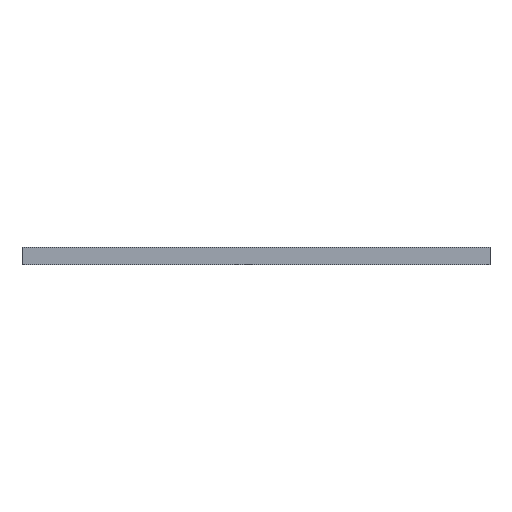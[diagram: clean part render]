
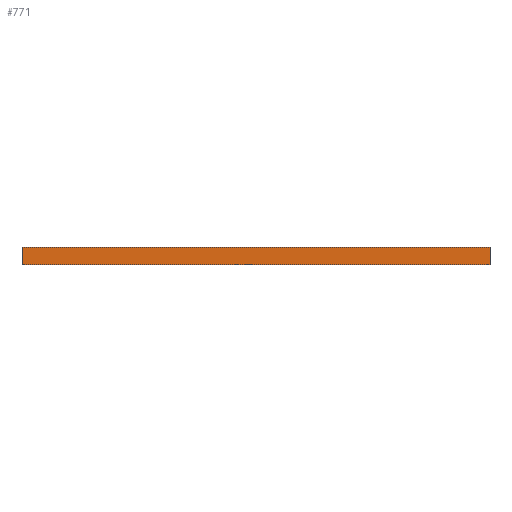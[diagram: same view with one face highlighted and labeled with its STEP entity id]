
A CAD part, front view. The second image highlights one B-rep face of the part: STEP entity #771.
In plain terms, the highlighted planar face has unit normal (0, -1, 0).
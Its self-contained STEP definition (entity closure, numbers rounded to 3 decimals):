
#348 = VERTEX_POINT ( 'NONE', #1753 ) ;
#350 = EDGE_CURVE ( 'NONE', #348, #351, #1752, .T. ) ;
#351 = VERTEX_POINT ( 'NONE', #1748 ) ;
#665 = EDGE_CURVE ( 'NONE', #348, #865, #2645, .T. ) ;
#771 = ADVANCED_FACE ( 'NONE', ( #2613 ), #2608, .F. ) ;
#772 = EDGE_LOOP ( 'NONE', ( #773, #774, #776, #777 ) ) ;
#773 = ORIENTED_EDGE ( 'NONE', *, *, #820, .T. ) ;
#774 = ORIENTED_EDGE ( 'NONE', *, *, #775, .F. ) ;
#775 = EDGE_CURVE ( 'NONE', #351, #871, #2675, .T. ) ;
#776 = ORIENTED_EDGE ( 'NONE', *, *, #350, .F. ) ;
#777 = ORIENTED_EDGE ( 'NONE', *, *, #665, .T. ) ;
#820 = EDGE_CURVE ( 'NONE', #865, #871, #2595, .T. ) ;
#865 = VERTEX_POINT ( 'NONE', #2741 ) ;
#871 = VERTEX_POINT ( 'NONE', #2816 ) ;
#1748 = CARTESIAN_POINT ( 'NONE',  ( 107.5, -105., 8. ) ) ;
#1749 = DIRECTION ( 'NONE',  ( 1., 0., 0. ) ) ;
#1750 = VECTOR ( 'NONE', #1749, 1000. ) ;
#1751 = CARTESIAN_POINT ( 'NONE',  ( -107.5, -105., 8. ) ) ;
#1752 = LINE ( 'NONE', #1751, #1750 ) ;
#1753 = CARTESIAN_POINT ( 'NONE',  ( -107.5, -105., 8. ) ) ;
#2592 = DIRECTION ( 'NONE',  ( 1., 0., 0. ) ) ;
#2593 = VECTOR ( 'NONE', #2592, 1000. ) ;
#2594 = CARTESIAN_POINT ( 'NONE',  ( -107.5, -105., 0. ) ) ;
#2595 = LINE ( 'NONE', #2594, #2593 ) ;
#2608 = PLANE ( 'NONE',  #2679 ) ;
#2613 = FACE_OUTER_BOUND ( 'NONE', #772, .T. ) ;
#2638 = DIRECTION ( 'NONE',  ( 0., 0., -1. ) ) ;
#2639 = VECTOR ( 'NONE', #2638, 1000. ) ;
#2640 = CARTESIAN_POINT ( 'NONE',  ( -107.5, -105., 8. ) ) ;
#2645 = LINE ( 'NONE', #2640, #2639 ) ;
#2672 = DIRECTION ( 'NONE',  ( 0., 0., -1. ) ) ;
#2673 = VECTOR ( 'NONE', #2672, 1000. ) ;
#2674 = CARTESIAN_POINT ( 'NONE',  ( 107.5, -105., 8. ) ) ;
#2675 = LINE ( 'NONE', #2674, #2673 ) ;
#2676 = DIRECTION ( 'NONE',  ( 0., 0., 1. ) ) ;
#2677 = DIRECTION ( 'NONE',  ( 0., 1., 0. ) ) ;
#2678 = CARTESIAN_POINT ( 'NONE',  ( -107.5, -105., 8. ) ) ;
#2679 = AXIS2_PLACEMENT_3D ( 'NONE', #2678, #2677, #2676 ) ;
#2741 = CARTESIAN_POINT ( 'NONE',  ( -107.5, -105., 0. ) ) ;
#2816 = CARTESIAN_POINT ( 'NONE',  ( 107.5, -105., 0. ) ) ;
